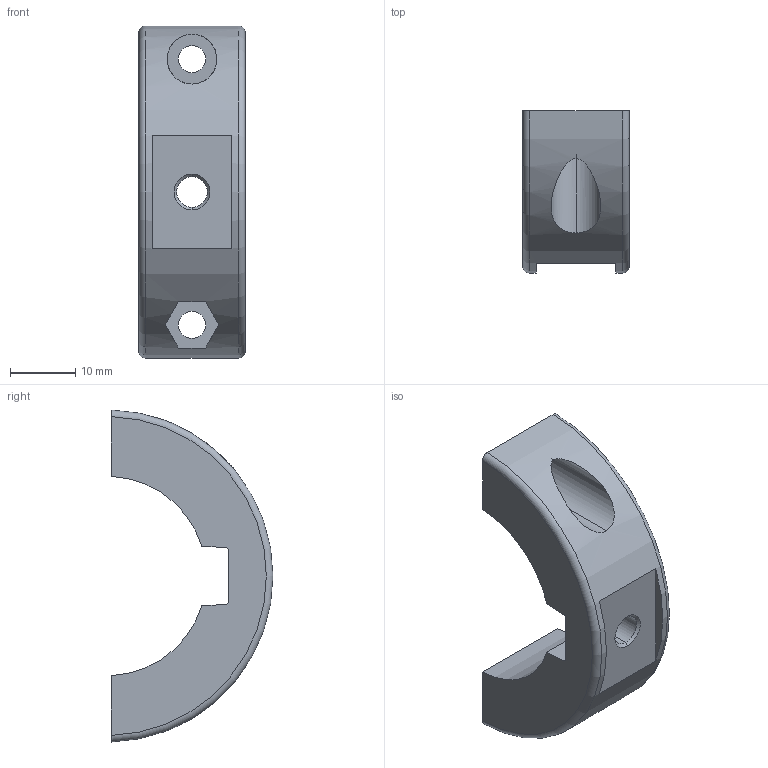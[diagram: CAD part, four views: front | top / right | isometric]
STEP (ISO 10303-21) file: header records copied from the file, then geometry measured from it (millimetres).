
FILE_DESCRIPTION((''),'2;1');
FILE_NAME('P592','2009-01-16T',('jbe'),(''),'PRO/ENGINEER BY PARAMETRIC TECHNOLOGY CORPORATION, 2008310','PRO/ENGINEER BY PARAMETRIC TECHNOLOGY CORPORATION, 2008310','');
FILE_SCHEMA(('CONFIG_CONTROL_DESIGN'));
Length unit declared in the file: millimetre
Products named in the file (1): P592
Bounding box: 16.34 x 24.89 x 51.03 mm (x, y, z)
Volume: 8517.4 mm3; surface area: 4212.5 mm2
Topology: 1 solids, 1 shells, 35 faces, 88 edges, 58 vertices
Faces by surface type: plane 18, cylinder 13, torus 2, cone 2
Entity records: 1190 total; most frequent: CARTESIAN_POINT 285, DIRECTION 178, ORIENTED_EDGE 176, EDGE_CURVE 88, AXIS2_PLACEMENT_3D 65, VERTEX_POINT 58, VECTOR 48, LINE 48
